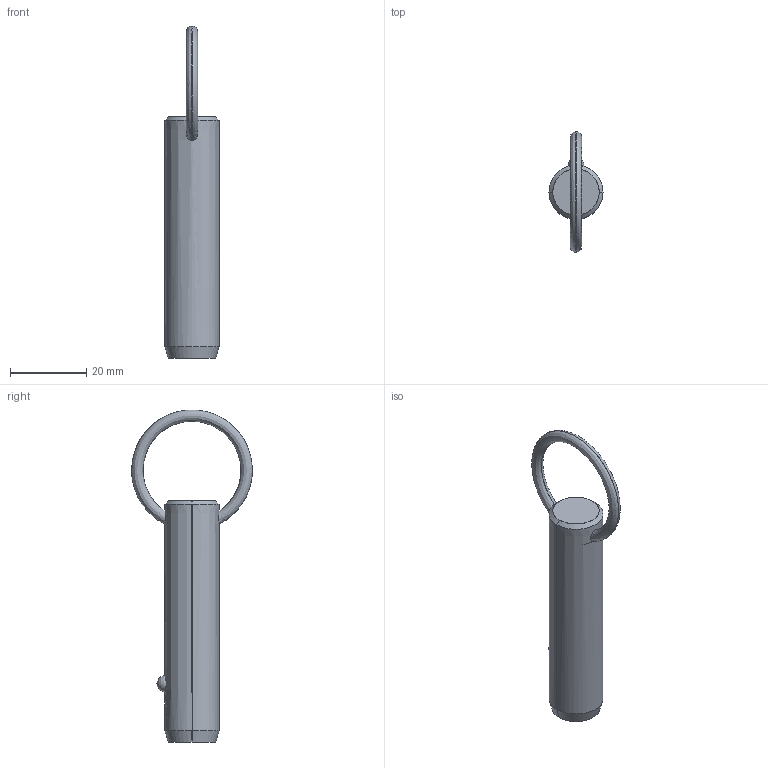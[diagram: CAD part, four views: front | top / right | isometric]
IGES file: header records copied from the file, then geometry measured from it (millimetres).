
Start section: SolidWorks IGES file using analytic representation for surfaces
Global section: file name: C:\Users\liam_\OneDrive\Documents\WORK\Work for WixRoyd\Job Files\J-00019 - Matt Davis CAD Checking\04. CAD Drawings\automotion20190605\P1250.2_v2\P1250.2_v2_20190729_IGES\P1250.056-150.igs; native system: SolidWorks 2017; preprocessor: SolidWorks 2017; author: liam_; date: 190729.231606; units: millimetre
Bounding box: 14.2 x 31.69 x 87.19 mm (x, y, z)
Surface area: 3794.2 mm2 (no closed solid volume)
Topology: 0 solids, 0 shells, 12 faces, 285 edges, 283 vertices
Faces by surface type: revolution 8, bspline 4
